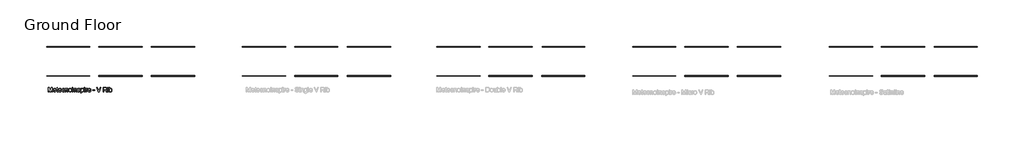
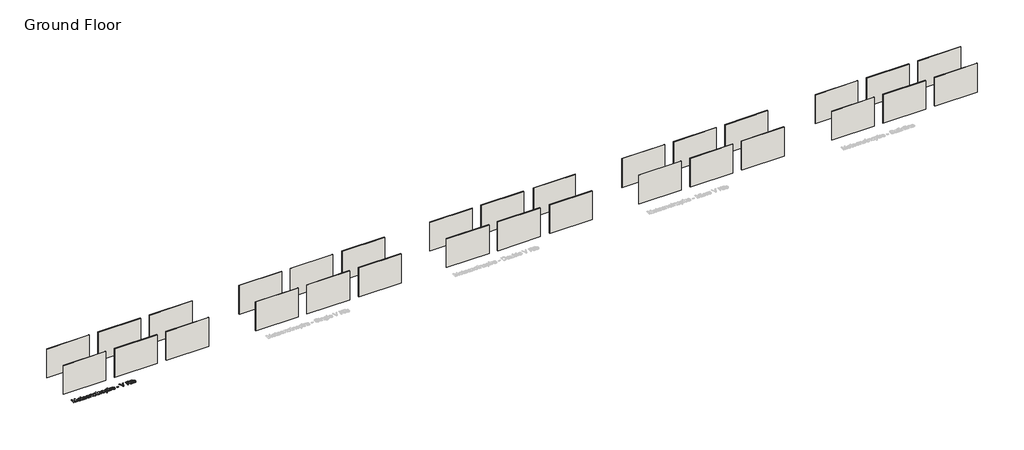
# One storey, part 1 of 5: 30 walls, 1 proxy.
"""IFC4 building model written with IfcOpenShell, lengths in millimetres."""

from ifc_helpers import new_model, si_unit, origin, origin_with_axes, place, context, project, spatial, polyline, outline, extrude, element, save

model = new_model("IFC4")

# Units and contexts
model_context = context("Model", 3, world=origin())
ifc_project = project(units=[si_unit("LENGTHUNIT", "METRE", prefix="MILLI")], contexts=[model_context])

# Site, building, storey
site = spatial("IfcSite", under=ifc_project)
building = spatial("IfcBuilding", under=site)
storey = spatial("IfcBuildingStorey", under=building, Name="Ground Floor", Elevation=0.0)

# Proxy
placement = place(None, origin())
element("IfcBuildingElementProxy", 1, Name="600mm Arial", ObjectType="600mm Arial", at=placement, inside=storey, context=model_context, shape_type="SweptSolid", body=[
    extrude(outline(polyline([(-31061.1753706, -1164.7468486), (-31061.1753706, -573.9776179), (-30934.108063, -573.9776179), (-30813.2426783, -990.3718486), (-30788.8676783, -1077.3430025), (-30762.4734476, -983.1603102), (-30643.6272937, -573.9776179), (-30516.559986, -573.9776179), (-30516.559986, -1164.7468486), (-30590.4061399, -1164.7468486), (-30590.4061399, -647.8237717), (-30738.8196014, -1164.7468486), (-30838.9157553, -1164.7468486), (-30987.3292168, -647.8237717), (-30987.3292168, -1164.7468486), (-31061.1753706, -1164.7468486)])), origin_with_axes(), (0.0, 0.0, 1.0), 20.0),
    extrude(outline(polyline([(-30092.809986, -1035.5160794), (-30020.4061399, -1044.7468486), (-30031.5074019, -1073.7462477), (-30046.4938803, -1099.3021371), (-30065.365575, -1121.4145169), (-30088.122486, -1140.0833871), (-30114.5302384, -1154.9121131), (-30144.3544572, -1165.5040602), (-30177.5951423, -1171.8592285), (-30214.2522937, -1173.9776179), (-30260.0726062, -1170.3222693), (-30300.8989283, -1159.3562236), (-30336.7312601, -1141.0794809), (-30367.5696014, -1115.492041), (-30392.3682793, -1083.3060434), (-30410.0816206, -1045.2336275), (-30420.7096255, -1001.2747934), (-30424.2522937, -951.429541), (-30420.6735678, -899.8940842), (-30409.9373899, -854.4704063), (-30392.0437601, -815.1585073), (-30366.9926783, -781.9583871), (-30336.2354668, -755.5821852), (-30301.2234476, -736.742041), (-30261.9566206, -725.4379544), (-30218.434986, -721.6699256), (-30176.3150942, -725.42894), (-30138.2246495, -736.7059833), (-30104.1636519, -755.5010554), (-30074.1321014, -781.8141563), (-30049.6173779, -814.9421611), (-30032.106861, -854.1819448), (-30021.6005509, -899.5335073), (-30018.0984476, -950.9968486), (-30018.5311399, -970.9006948), (-30350.4061399, -970.9006948), (-30346.1287961, -1000.3688438), (-30337.623688, -1026.1771371), (-30324.8908154, -1048.3255746), (-30307.9301783, -1066.8141563), (-30287.6792769, -1081.3904785), (-30265.075611, -1091.8021371), (-30240.1191807, -1098.0491323), (-30212.809986, -1100.131464), (-30173.5071014, -1096.273291), (-30140.4061399, -1084.6987717), (-30113.5071014, -1064.6867525), (-30092.809986, -1035.5160794)]), holes=[polyline([(-30350.4061399, -897.054541), (-30091.9446014, -897.054541), (-30101.9325822, -858.0401179), (-30110.5233274, -842.6975698), (-30121.5119091, -830.131464), (-30141.6501303, -814.9872333), (-30164.5647937, -804.1699256), (-30190.2558995, -797.679541), (-30218.7234476, -795.5160794), (-30244.6894932, -797.2423414), (-30268.5010918, -802.4211275), (-30290.1582432, -811.0524376), (-30309.6609476, -823.1362717), (-30326.0266327, -838.1137357), (-30338.2727264, -855.4259352), (-30346.3992288, -875.0728703), (-30350.4061399, -897.054541)])]), origin_with_axes(), (0.0, 0.0, 1.0), 20.0),
    extrude(outline(polyline([(-29787.3292168, -1103.1603102), (-29778.0984476, -1166.9103102), (-29833.3388322, -1173.9776179), (-29868.7835437, -1170.912714), (-29895.2138322, -1161.7180025), (-29913.8917168, -1147.5473294), (-29926.0792168, -1129.554541), (-29932.7859476, -1098.6530986), (-29935.0215245, -1045.756464), (-29935.0215245, -804.7468486), (-29990.4061399, -804.7468486), (-29990.4061399, -730.9006948), (-29935.0215245, -730.9006948), (-29935.0215245, -625.4680025), (-29861.1753706, -582.054541), (-29861.1753706, -730.9006948), (-29787.3292168, -730.9006948), (-29787.3292168, -804.7468486), (-29861.1753706, -804.7468486), (-29861.1753706, -1043.5930025), (-29857.2811399, -1081.6699256), (-29844.6609476, -1095.1555025), (-29834.0058995, -1098.8874736), (-29819.4926783, -1100.131464), (-29787.3292168, -1103.1603102)])), origin_with_axes(), (0.0, 0.0, 1.0), 20.0),
    extrude(outline(polyline([(-29409.733063, -1035.5160794), (-29337.3292168, -1044.7468486), (-29348.4304788, -1073.7462477), (-29363.4169572, -1099.3021371), (-29382.2886519, -1121.4145169), (-29405.045563, -1140.0833871), (-29431.4533154, -1154.9121131), (-29461.2775341, -1165.5040602), (-29494.5182192, -1171.8592285), (-29531.1753706, -1173.9776179), (-29576.9956831, -1170.3222693), (-29617.8220053, -1159.3562236), (-29653.654337, -1141.0794809), (-29684.4926783, -1115.492041), (-29709.2913562, -1083.3060434), (-29727.0046976, -1045.2336275), (-29737.6327024, -1001.2747934), (-29741.1753706, -951.429541), (-29737.5966447, -899.8940842), (-29726.8604668, -854.4704063), (-29708.966837, -815.1585073), (-29683.9157553, -781.9583871), (-29653.1585437, -755.5821852), (-29618.1465245, -736.742041), (-29578.8796976, -725.4379544), (-29535.358063, -721.6699256), (-29493.2381711, -725.42894), (-29455.1477264, -736.7059833), (-29421.0867288, -755.5010554), (-29391.0551783, -781.8141563), (-29366.5404548, -814.9421611), (-29349.029938, -854.1819448), (-29338.5236279, -899.5335073), (-29335.0215245, -950.9968486), (-29335.4542168, -970.9006948), (-29667.3292168, -970.9006948), (-29663.051873, -1000.3688438), (-29654.5467649, -1026.1771371), (-29641.8138923, -1048.3255746), (-29624.8532553, -1066.8141563), (-29604.6023538, -1081.3904785), (-29581.998688, -1091.8021371), (-29557.0422577, -1098.0491323), (-29529.733063, -1100.131464), (-29490.4301783, -1096.273291), (-29457.3292168, -1084.6987717), (-29430.4301783, -1064.6867525), (-29409.733063, -1035.5160794)]), holes=[polyline([(-29667.3292168, -897.054541), (-29408.8676783, -897.054541), (-29418.8556591, -858.0401179), (-29427.4464043, -842.6975698), (-29438.434986, -830.131464), (-29458.5732072, -814.9872333), (-29481.4878706, -804.1699256), (-29507.1789764, -797.679541), (-29535.6465245, -795.5160794), (-29561.6125702, -797.2423414), (-29585.4241687, -802.4211275), (-29607.0813202, -811.0524376), (-29626.5840245, -823.1362717), (-29642.9497096, -838.1137357), (-29655.1958033, -855.4259352), (-29663.3223057, -875.0728703), (-29667.3292168, -897.054541)])]), origin_with_axes(), (0.0, 0.0, 1.0), 20.0),
    extrude(outline(polyline([(-28984.2522937, -1007.8237717), (-28910.4061399, -1017.054541), (-28918.4379908, -1051.8997934), (-28930.9950822, -1082.7336275), (-28948.0774139, -1109.5560434), (-28969.684986, -1132.367041), (-28994.9073418, -1150.5716684), (-29022.8340245, -1163.5749736), (-29053.4650341, -1171.3769568), (-29086.8003706, -1173.9776179), (-29128.2171375, -1170.3493126), (-29165.3520533, -1159.4643967), (-29198.2051182, -1141.3228703), (-29226.7763322, -1115.9247333), (-29249.9028346, -1083.7477501), (-29266.4217649, -1045.2696852), (-29276.333123, -1000.4905385), (-29279.6369091, -949.4103102), (-29273.9938803, -883.695166), (-29266.9400942, -854.123351), (-29257.0647937, -826.742041), (-29244.3003706, -802.1011155), (-29228.5792168, -780.7504544), (-29209.9013322, -762.6900578), (-29188.2667168, -747.9199256), (-29164.6534355, -736.4355506), (-29140.0395533, -728.2324256), (-29114.4250702, -723.3105506), (-29087.809986, -721.6699256), (-29055.0470654, -723.9235313), (-29025.4121495, -730.6843486), (-28998.9052384, -741.9523775), (-28975.5263322, -757.7276179), (-28955.6720654, -777.6494929), (-28939.7390726, -801.3574256), (-28927.7273538, -828.851416), (-28919.6369091, -860.131464), (-28993.483063, -869.3622333), (-29006.8784956, -837.1446852), (-29027.7378706, -814.0497333), (-29054.9073418, -800.1494929), (-29087.233063, -795.5160794), (-29112.3247096, -797.7967285), (-29134.9554187, -804.6386756), (-29155.1251904, -816.0419208), (-29172.8340245, -832.006464), (-29187.2525942, -852.9018967), (-29197.5515726, -879.0978102), (-29203.7309596, -910.5942044), (-29205.7907553, -947.3910794), (-29203.7760317, -984.7423414), (-29197.731861, -1016.6038198), (-29187.6582432, -1042.9755145), (-29173.5551783, -1063.8574256), (-29156.1979067, -1079.7273174), (-29136.3616687, -1091.0629544), (-29114.0464644, -1097.8643366), (-29089.2522937, -1100.131464), (-29051.013111, -1094.4704063), (-29034.4761519, -1087.3940842), (-29019.6609476, -1077.4872333), (-29006.9821615, -1064.6416804), (-28996.8544572, -1048.7492525), (-28989.2778346, -1029.8099496), (-28984.2522937, -1007.8237717)])), origin_with_axes(), (0.0, 0.0, 1.0), 20.0),
    extrude(outline(polyline([(-28845.7907553, -1164.7468486), (-28845.7907553, -730.9006948), (-28771.9446014, -730.9006948), (-28771.9446014, -791.4776179), (-28746.2895533, -760.9367525), (-28715.4782553, -739.1218486), (-28679.5107072, -726.0329063), (-28638.3869091, -721.6699256), (-28601.9866687, -725.1855506), (-28568.6513322, -735.7324256), (-28540.8508514, -751.9944448), (-28521.0551783, -772.6555025), (-28507.623688, -797.6615121), (-28498.9157553, -826.9583871), (-28495.0215245, -898.3526179), (-28495.0215245, -1164.7468486), (-28568.8676783, -1164.7468486), (-28568.8676783, -908.304541), (-28570.9950822, -870.1194448), (-28577.3772937, -842.9680025), (-28589.1501303, -823.5148775), (-28607.4494091, -808.4247333), (-28630.904938, -798.7432429), (-28658.1465245, -795.5160794), (-28680.5699019, -797.3279785), (-28701.3977264, -802.7636756), (-28720.629998, -811.8231708), (-28738.2667168, -824.506464), (-28753.0007913, -842.2558631), (-28763.5251303, -866.5136756), (-28769.8397336, -897.2799015), (-28771.9446014, -934.554541), (-28771.9446014, -1164.7468486), (-28845.7907553, -1164.7468486)])), origin_with_axes(), (0.0, 0.0, 1.0), 20.0),
    extrude(outline(polyline([(-28411.9446014, -947.8237717), (-28407.951212, -891.6368727), (-28395.9710437, -843.2204063), (-28376.0040966, -802.5743727), (-28348.0503706, -769.6987717), (-28319.9073418, -748.6861515), (-28288.8436399, -733.6771371), (-28254.8592649, -724.6717285), (-28217.9542168, -721.6699256), (-28177.2135317, -725.3252741), (-28140.3760918, -736.2913198), (-28107.4418971, -754.5680626), (-28078.4109476, -780.1555025), (-28054.7165365, -812.1882549), (-28037.7919572, -849.8009352), (-28027.6372096, -892.9935434), (-28024.2522937, -941.7660794), (-28025.748688, -981.2943246), (-28030.2378706, -1016.3694448), (-28037.7198418, -1046.99144), (-28048.1946014, -1073.1603102), (-28061.5314404, -1095.763976), (-28077.5996495, -1115.6903583), (-28096.3992288, -1132.9394568), (-28117.9301783, -1147.5112717), (-28141.3541567, -1159.0902982), (-28165.8328226, -1167.3610313), (-28191.3661759, -1172.3234712), (-28217.9542168, -1173.9776179), (-28259.2898538, -1170.335791), (-28296.4698418, -1159.4103102), (-28329.4941807, -1141.2011756), (-28358.3628706, -1115.7083871), (-28381.8048779, -1083.3646371), (-28398.5491687, -1044.6026179), (-28408.5957432, -999.4223294), (-28411.9446014, -947.8237717)]), holes=[polyline([(-28338.0984476, -947.679541), (-28335.9620293, -983.498351), (-28329.5527745, -1014.5124736), (-28318.8706831, -1040.7219087), (-28303.9157553, -1062.1266563), (-28285.7246495, -1078.7537597), (-28265.3340245, -1090.6302621), (-28242.7438803, -1097.7561635), (-28217.9542168, -1100.131464), (-28193.2907553, -1097.7426419), (-28170.7907553, -1090.5761756), (-28150.4542168, -1078.632065), (-28132.2811399, -1061.9103102), (-28117.326212, -1040.2937236), (-28106.6441206, -1013.6651179), (-28100.2348658, -982.0244929), (-28098.0984476, -945.3718486), (-28100.2483875, -910.6888559), (-28106.6982072, -880.4860313), (-28117.4479067, -854.7633751), (-28132.497486, -833.5208871), (-28150.7381711, -816.8937837), (-28171.061188, -805.0172813), (-28193.4665365, -797.8913799), (-28217.9542168, -795.5160794), (-28242.7438803, -797.8823655), (-28265.3340245, -804.9812236), (-28285.7246495, -816.8126539), (-28303.9157553, -833.3766563), (-28318.8706831, -854.718303), (-28329.5527745, -880.882666), (-28335.9620293, -911.8697453), (-28338.0984476, -947.679541)])]), origin_with_axes(), (0.0, 0.0, 1.0), 20.0),
    extrude(outline(polyline([(-27922.7138322, -1164.7468486), (-27922.7138322, -573.9776179), (-27848.8676783, -573.9776179), (-27848.8676783, -1164.7468486), (-27922.7138322, -1164.7468486)])), origin_with_axes(), (0.0, 0.0, 1.0), 20.0),
    extrude(outline(polyline([(-27710.4061399, -1164.7468486), (-27710.4061399, -730.9006948), (-27636.559986, -730.9006948), (-27636.559986, -791.4776179), (-27610.904938, -760.9367525), (-27580.0936399, -739.1218486), (-27544.1260918, -726.0329063), (-27503.0022937, -721.6699256), (-27466.6020533, -725.1855506), (-27433.2667168, -735.7324256), (-27405.466236, -751.9944448), (-27385.670563, -772.6555025), (-27372.2390726, -797.6615121), (-27363.5311399, -826.9583871), (-27359.6369091, -898.3526179), (-27359.6369091, -1164.7468486), (-27433.483063, -1164.7468486), (-27433.483063, -908.304541), (-27435.6104668, -870.1194448), (-27441.9926783, -842.9680025), (-27453.7655149, -823.5148775), (-27472.0647937, -808.4247333), (-27495.5203226, -798.7432429), (-27522.7619091, -795.5160794), (-27545.1852865, -797.3279785), (-27566.013111, -802.7636756), (-27585.2453827, -811.8231708), (-27602.8821014, -824.506464), (-27617.6161759, -842.2558631), (-27628.1405149, -866.5136756), (-27634.4551182, -897.2799015), (-27636.559986, -934.554541), (-27636.559986, -1164.7468486), (-27710.4061399, -1164.7468486)])), origin_with_axes(), (0.0, 0.0, 1.0), 20.0),
    extrude(outline(polyline([(-27285.7907553, -1035.5160794), (-27211.9446014, -1026.2853102), (-27207.482462, -1043.1242525), (-27200.2979668, -1057.8718486), (-27190.3911158, -1070.5280986), (-27177.7619091, -1081.0930025), (-27162.3742889, -1089.4223294), (-27144.1921976, -1095.3718486), (-27099.4446014, -1100.131464), (-27055.2378706, -1095.7684833), (-27038.0563803, -1090.3147573), (-27024.1561399, -1082.679541), (-27005.7667168, -1063.7131948), (-26999.6369091, -1041.7180025), (-27001.1783755, -1031.7480506), (-27005.8027745, -1022.8958871), (-27024.3003706, -1008.5449256), (-27051.9566206, -999.1699256), (-27100.309986, -987.4872333), (-27167.701813, -967.9980506), (-27211.5119091, -951.3574256), (-27239.654938, -933.2023775), (-27260.045563, -909.1699256), (-27272.4313803, -880.7925217), (-27276.559986, -849.6026179), (-27273.2426783, -820.990839), (-27263.2907553, -794.5785794), (-27247.6056591, -771.4115121), (-27227.0888322, -752.5353102), (-27206.6982072, -740.6543006), (-27180.1417168, -730.6843486), (-27149.4385918, -723.9235313), (-27116.608063, -721.6699256), (-27068.5431591, -725.2937236), (-27026.7522937, -736.1651179), (-26993.1465245, -753.2204063), (-26969.6369091, -775.3958871), (-26954.059986, -804.3321852), (-26944.2522937, -841.6699256), (-27018.0984476, -850.9006948), (-27027.419361, -827.6615121), (-27045.8628706, -810.1555025), (-27073.6092649, -799.1759352), (-27110.8388322, -795.5160794), (-27153.2426783, -799.0136756), (-27181.5119091, -809.506464), (-27197.4133514, -824.6506948), (-27202.7138322, -842.1026179), (-27200.514313, -853.460791), (-27193.9157553, -863.5930025), (-27182.6296976, -872.6434833), (-27166.3676783, -879.8910794), (-27102.7619091, -895.6122333), (-26994.372486, -930.3718486), (-26965.7426783, -946.9944448), (-26944.0359476, -969.7468486), (-26930.3520533, -998.7011756), (-26925.7907553, -1033.929541), (-26931.1453226, -1070.3478102), (-26947.2090245, -1104.6026179), (-26973.3688803, -1134.007666), (-27009.0119091, -1155.8766563), (-27052.0647937, -1169.4523775), (-27100.4542168, -1173.9776179), (-27140.1988081, -1171.7961275), (-27174.9133514, -1165.2516563), (-27204.5978466, -1154.3442044), (-27229.2522937, -1139.0737717), (-27249.3905149, -1119.5124736), (-27265.5263322, -1095.7324256), (-27277.6597456, -1067.7336275), (-27285.7907553, -1035.5160794)])), origin_with_axes(), (0.0, 0.0, 1.0), 20.0),
    extrude(outline(polyline([(-26842.7138322, -1330.9006948), (-26842.7138322, -730.9006948), (-26768.8676783, -730.9006948), (-26768.8676783, -803.304541), (-26744.7811399, -767.5893967), (-26717.809986, -742.0785794), (-26686.3676783, -726.772089), (-26648.8676783, -721.6699256), (-26623.1134716, -723.4547813), (-26598.9277745, -728.8093486), (-26576.310587, -737.7336275), (-26555.2619091, -750.2276179), (-26536.2414764, -765.9668006), (-26519.7090245, -784.6266563), (-26505.6645533, -806.2071852), (-26494.108063, -830.7083871), (-26478.639313, -885.1194448), (-26473.483063, -944.506464), (-26479.3063803, -1007.6615121), (-26486.5855269, -1036.7375337), (-26496.7763322, -1064.1458871), (-26509.7390726, -1089.1699256), (-26525.3340245, -1111.0930025), (-26543.561188, -1129.9151179), (-26564.420563, -1145.6362717), (-26586.8890125, -1158.0356107), (-26609.9433995, -1166.8922813), (-26633.583724, -1172.2062837), (-26657.809986, -1173.9776179), (-26691.7583033, -1169.2360313), (-26722.0647937, -1155.0112717), (-26748.0083033, -1133.538916), (-26768.8676783, -1107.054541), (-26768.8676783, -1330.9006948), (-26842.7138322, -1330.9006948)]), holes=[polyline([(-26768.8676783, -951.2853102), (-26766.8709836, -986.8742525), (-26760.8808995, -1017.4872333), (-26750.8974259, -1043.1242525), (-26736.920563, -1063.7853102), (-26720.0951423, -1079.6867525), (-26701.5659956, -1091.0449256), (-26681.333123, -1097.8598294), (-26659.3965245, -1100.131464), (-26637.1444211, -1097.7786996), (-26616.5419572, -1090.7204063), (-26597.5891327, -1078.9565842), (-26580.2859476, -1062.4872333), (-26565.8673779, -1041.0779785), (-26555.5683995, -1014.4944448), (-26549.3890125, -982.7366323), (-26547.3292168, -945.804541), (-26549.3394331, -910.522089), (-26555.3700822, -879.9631948), (-26565.4211639, -854.1278583), (-26579.4926783, -833.0160794), (-26596.3586639, -816.6098294), (-26614.7931591, -804.8910794), (-26634.7961639, -797.8598294), (-26656.3676783, -795.5160794), (-26677.8715846, -798.0085674), (-26698.1044572, -805.4860313), (-26717.0662961, -817.9484712), (-26734.7571014, -835.3958871), (-26749.6804788, -857.5939039), (-26760.3400341, -884.3081467), (-26766.7357673, -915.5386155), (-26768.8676783, -951.2853102)])]), origin_with_axes(), (0.0, 0.0, 1.0), 20.0),
    extrude(outline(polyline([(-26390.4061399, -1164.7468486), (-26390.4061399, -730.9006948), (-26316.559986, -730.9006948), (-26316.559986, -1164.7468486), (-26390.4061399, -1164.7468486)])), origin_with_axes(), (0.0, 0.0, 1.0), 20.0),
    extrude(outline(polyline([(-26390.4061399, -647.8237717), (-26390.4061399, -573.9776179), (-26316.559986, -573.9776179), (-26316.559986, -647.8237717), (-26390.4061399, -647.8237717)])), origin_with_axes(), (0.0, 0.0, 1.0), 20.0),
    extrude(outline(polyline([(-26205.7907553, -1164.7468486), (-26205.7907553, -730.9006948), (-26141.1753706, -730.9006948), (-26141.1753706, -795.0833871), (-26117.3051783, -757.8718486), (-26095.309986, -735.9487717), (-26073.2426783, -725.2396371), (-26049.1561399, -721.6699256), (-26012.3772937, -727.367041), (-25975.0215245, -744.4583871), (-25999.684986, -810.6603102), (-26025.6465245, -799.3021371), (-26051.608063, -795.5160794), (-26073.6573418, -799.1579063), (-26093.3628706, -810.0833871), (-26109.2823418, -827.4631948), (-26119.9734476, -850.4680025), (-26128.951813, -891.7180025), (-26131.9446014, -936.7180025), (-26131.9446014, -1164.7468486), (-26205.7907553, -1164.7468486)])), origin_with_axes(), (0.0, 0.0, 1.0), 20.0),
    extrude(outline(polyline([(-25625.1176783, -1035.5160794), (-25552.7138322, -1044.7468486), (-25563.8150942, -1073.7462477), (-25578.8015726, -1099.3021371), (-25597.6732673, -1121.4145169), (-25620.4301783, -1140.0833871), (-25646.8379307, -1154.9121131), (-25676.6621495, -1165.5040602), (-25709.9028346, -1171.8592285), (-25746.559986, -1173.9776179), (-25792.3802985, -1170.3222693), (-25833.2066206, -1159.3562236), (-25869.0389524, -1141.0794809), (-25899.8772937, -1115.492041), (-25924.6759716, -1083.3060434), (-25942.389313, -1045.2336275), (-25953.0173178, -1001.2747934), (-25956.559986, -951.429541), (-25952.9812601, -899.8940842), (-25942.2450822, -854.4704063), (-25924.3514524, -815.1585073), (-25899.3003706, -781.9583871), (-25868.5431591, -755.5821852), (-25833.5311399, -736.742041), (-25794.264313, -725.4379544), (-25750.7426783, -721.6699256), (-25708.6227865, -725.42894), (-25670.5323418, -736.7059833), (-25636.4713442, -755.5010554), (-25606.4397937, -781.8141563), (-25581.9250702, -814.9421611), (-25564.4145533, -854.1819448), (-25553.9082432, -899.5335073), (-25550.4061399, -950.9968486), (-25550.8388322, -970.9006948), (-25882.7138322, -970.9006948), (-25878.4364884, -1000.3688438), (-25869.9313803, -1026.1771371), (-25857.1985077, -1048.3255746), (-25840.2378706, -1066.8141563), (-25819.9869692, -1081.3904785), (-25797.3833033, -1091.8021371), (-25772.426873, -1098.0491323), (-25745.1176783, -1100.131464), (-25705.8147937, -1096.273291), (-25672.7138322, -1084.6987717), (-25645.8147937, -1064.6867525), (-25625.1176783, -1035.5160794)]), holes=[polyline([(-25882.7138322, -897.054541), (-25624.2522937, -897.054541), (-25634.2402745, -858.0401179), (-25642.8310197, -842.6975698), (-25653.8196014, -830.131464), (-25673.9578226, -814.9872333), (-25696.872486, -804.1699256), (-25722.5635918, -797.679541), (-25751.0311399, -795.5160794), (-25776.9971855, -797.2423414), (-25800.8087841, -802.4211275), (-25822.4659355, -811.0524376), (-25841.9686399, -823.1362717), (-25858.334325, -838.1137357), (-25870.5804187, -855.4259352), (-25878.7069211, -875.0728703), (-25882.7138322, -897.054541)])]), origin_with_axes(), (0.0, 0.0, 1.0), 20.0),
    extrude(outline(polyline([(-25282.7138322, -989.3622333), (-25282.7138322, -915.5160794), (-25051.9446014, -915.5160794), (-25051.9446014, -989.3622333), (-25282.7138322, -989.3622333)])), origin_with_axes(), (0.0, 0.0, 1.0), 20.0),
    extrude(outline(polyline([(-24554.3484476, -1164.7468486), (-24789.4446014, -573.9776179), (-24710.4061399, -573.9776179), (-24553.0503706, -999.6026179), (-24521.1753706, -1095.5160794), (-24489.733063, -999.6026179), (-24331.9446014, -573.9776179), (-24252.9061399, -573.9776179), (-24478.0503706, -1164.7468486), (-24554.3484476, -1164.7468486)])), origin_with_axes(), (0.0, 0.0, 1.0), 20.0),
    extrude(outline(polyline([(-23953.483063, -1164.7468486), (-23953.483063, -573.9776179), (-23698.9157553, -573.9776179), (-23630.4962841, -577.9619929), (-23580.7186399, -589.9151179), (-23561.5089043, -599.4163198), (-23544.3364283, -611.9824256), (-23529.201212, -627.6134352), (-23516.1032553, -646.3093486), (-23505.5338442, -667.0650578), (-23497.9842649, -688.8754544), (-23491.9446014, -735.6603102), (-23494.4461038, -766.0028583), (-23501.950611, -793.8574256), (-23514.458123, -819.2240121), (-23531.9686399, -842.1026179), (-23554.7075221, -861.7630746), (-23582.9001303, -877.475214), (-23616.5464644, -889.2390361), (-23655.6465245, -897.054541), (-23631.3075822, -912.9559833), (-23613.6753706, -928.6410794), (-23553.8196014, -1004.6506948), (-23455.309986, -1164.7468486), (-23541.1272937, -1164.7468486), (-23618.0022937, -1042.2949256), (-23673.5311399, -961.2372333), (-23694.1741687, -937.601416), (-23712.545563, -922.943964), (-23747.6657553, -908.881464), (-23790.5022937, -906.2853102), (-23879.6369091, -906.2853102), (-23879.6369091, -1164.7468486), (-23953.483063, -1164.7468486)]), holes=[polyline([(-23879.6369091, -832.4391563), (-23714.3484476, -832.4391563), (-23666.8784956, -829.8249736), (-23630.045563, -821.9824256), (-23602.3171976, -808.3886756), (-23582.1609476, -788.5208871), (-23569.8833033, -764.4884352), (-23565.7907553, -738.4006948), (-23567.7423779, -719.5154785), (-23573.5972456, -702.3790602), (-23583.3553586, -686.99144), (-23597.0167168, -673.3526179), (-23614.896825, -662.1837477), (-23637.311188, -654.2059833), (-23664.2598057, -649.4193246), (-23695.7426783, -647.8237717), (-23879.6369091, -647.8237717), (-23879.6369091, -832.4391563)])]), origin_with_axes(), (0.0, 0.0, 1.0), 20.0),
    extrude(outline(polyline([(-23371.9446014, -1164.7468486), (-23371.9446014, -730.9006948), (-23298.0984476, -730.9006948), (-23298.0984476, -1164.7468486), (-23371.9446014, -1164.7468486)])), origin_with_axes(), (0.0, 0.0, 1.0), 20.0),
    extrude(outline(polyline([(-23371.9446014, -647.8237717), (-23371.9446014, -573.9776179), (-23298.0984476, -573.9776179), (-23298.0984476, -647.8237717), (-23371.9446014, -647.8237717)])), origin_with_axes(), (0.0, 0.0, 1.0), 20.0),
    extrude(outline(polyline([(-23113.483063, -1164.7468486), (-23187.3292168, -1164.7468486), (-23187.3292168, -573.9776179), (-23113.483063, -573.9776179), (-23113.483063, -793.0641563), (-23089.1982072, -761.8291804), (-23061.7763322, -739.5184833), (-23031.217438, -726.132065), (-22997.5215245, -721.6699256), (-22959.4806591, -725.6903583), (-22923.5311399, -737.7516563), (-22891.7282553, -757.0966083), (-22866.1272937, -782.9680025), (-22846.061188, -815.1134352), (-22830.8628706, -853.2805025), (-22821.2895533, -895.882666), (-22818.0984476, -941.3333871), (-22821.4022336, -993.7793006), (-22831.3135918, -1039.9151179), (-22847.8325221, -1079.740839), (-22870.9590245, -1113.256464), (-22898.7189404, -1139.8219688), (-22929.138111, -1158.7973294), (-22962.2165365, -1170.1825458), (-22997.9542168, -1173.9776179), (-23032.7589043, -1169.0827861), (-23063.6152745, -1154.398291), (-23090.5233274, -1129.9241323), (-23113.483063, -1095.6603102), (-23113.483063, -1164.7468486)]), holes=[polyline([(-23113.483063, -944.7949256), (-23108.434986, -1006.381464), (-23102.1248899, -1029.710791), (-23093.2907553, -1048.0641563), (-23075.3971255, -1070.8436035), (-23054.6008514, -1087.1146371), (-23030.9019331, -1096.8772573), (-23004.3003706, -1100.131464), (-22982.2150341, -1097.7336275), (-22961.6801783, -1090.5401179), (-22942.6958033, -1078.5509352), (-22925.2619091, -1061.7660794), (-22910.685587, -1040.2306227), (-22900.2739283, -1013.9896371), (-22894.0269331, -983.0431227), (-22891.9446014, -947.3910794), (-22893.9412961, -911.0629544), (-22899.9313803, -879.818964), (-22909.9148538, -853.6591083), (-22923.8917168, -832.5833871), (-22940.6991086, -816.36644), (-22959.1741687, -804.7829063), (-22979.3168971, -797.8327861), (-23001.1272937, -795.5160794), (-23023.2126303, -797.913916), (-23043.747486, -805.1074256), (-23062.731861, -817.0966083), (-23080.1657553, -833.881464), (-23094.7420774, -855.2005746), (-23105.153736, -880.7925217), (-23111.4007312, -910.6573054), (-23113.483063, -944.7949256)])]), origin_with_axes(), (0.0, 0.0, 1.0), 20.0),
])

# Walls
element("IfcWall", 2, ObjectType="Insulated Panel-MetecnoInspire-Single V Rib-Hori-50mm-Surfmist", at=placement, inside=storey, context=model_context, shape_type="SweptSolid", body=[
    extrude(outline(polyline([(-365.214984, 874.5608175), (-5965.214984, 874.5608175), (-5965.214984, 924.5608175), (-365.214984, 924.5608175), (-365.214984, 874.5608175)])), origin_with_axes(), (0.0, 0.0, 1.0), 4000.0),
])
element("IfcWall", 3, ObjectType="Insulated Panel-MetecnoInspire-Single V Rib-Hori-80mm-Surfmist", at=placement, inside=storey, context=model_context, shape_type="SweptSolid", body=[
    extrude(outline(polyline([(6379.585016, 859.5608175), (779.585016, 859.5608175), (779.585016, 939.5608175), (6379.585016, 939.5608175), (6379.585016, 859.5608175)])), origin_with_axes(), (0.0, 0.0, 1.0), 4000.0),
])
element("IfcWall", 4, ObjectType="Insulated Panel-MetecnoInspire-Single V Rib-Hori-100mm-Surfmist", at=placement, inside=storey, context=model_context, shape_type="SweptSolid", body=[
    extrude(outline(polyline([(13179.585016, 849.5608175), (7579.585016, 849.5608175), (7579.585016, 949.5608175), (13179.585016, 949.5608175), (13179.585016, 849.5608175)])), origin_with_axes(), (0.0, 0.0, 1.0), 4000.0),
])
element("IfcWall", 5, ObjectType="Insulated Panel-MetecnoInspire-Single V Rib-Vert-50mm-Surfmist", at=placement, inside=storey, context=model_context, shape_type="SweptSolid", body=[
    extrude(outline(polyline([(-365.214984, 4654.5608175), (-5965.214984, 4654.5608175), (-5965.214984, 4704.5608175), (-365.214984, 4704.5608175), (-365.214984, 4654.5608175)])), origin_with_axes(), (0.0, 0.0, 1.0), 4000.0),
])
element("IfcWall", 6, ObjectType="Insulated Panel-MetecnoInspire-Single V Rib-Vert-80mm-Surfmist", at=placement, inside=storey, context=model_context, shape_type="SweptSolid", body=[
    extrude(outline(polyline([(6379.585016, 4639.5608175), (779.585016, 4639.5608175), (779.585016, 4719.5608175), (6379.585016, 4719.5608175), (6379.585016, 4639.5608175)])), origin_with_axes(), (0.0, 0.0, 1.0), 4000.0),
])
element("IfcWall", 7, ObjectType="Insulated Panel-MetecnoInspire-Single V Rib-Vert-100mm-Surfmist", at=placement, inside=storey, context=model_context, shape_type="SweptSolid", body=[
    extrude(outline(polyline([(13179.585016, 4629.5608175), (7579.585016, 4629.5608175), (7579.585016, 4729.5608175), (13179.585016, 4729.5608175), (13179.585016, 4629.5608175)])), origin_with_axes(), (0.0, 0.0, 1.0), 4000.0),
])
element("IfcWall", 8, ObjectType="Insulated Panel-MetecnoInspire-V Rib-Hori-50mm-Surfmist", at=placement, inside=storey, context=model_context, shape_type="SweptSolid", body=[
    extrude(outline(polyline([(-25665.214984, 874.5608175), (-31265.214984, 874.5608175), (-31265.214984, 924.5608175), (-25665.214984, 924.5608175), (-25665.214984, 874.5608175)])), origin_with_axes(), (0.0, 0.0, 1.0), 4000.0),
])
element("IfcWall", 9, ObjectType="Insulated Panel-MetecnoInspire-V Rib-Hori-80mm-Surfmist", at=placement, inside=storey, context=model_context, shape_type="SweptSolid", body=[
    extrude(outline(polyline([(-18920.414984, 859.5608175), (-24520.414984, 859.5608175), (-24520.414984, 939.5608175), (-18920.414984, 939.5608175), (-18920.414984, 859.5608175)])), origin_with_axes(), (0.0, 0.0, 1.0), 4000.0),
])
element("IfcWall", 10, ObjectType="Insulated Panel-MetecnoInspire-V Rib-Hori-100mm-Surfmist", at=placement, inside=storey, context=model_context, shape_type="SweptSolid", body=[
    extrude(outline(polyline([(-12120.414984, 849.5608175), (-17720.414984, 849.5608175), (-17720.414984, 949.5608175), (-12120.414984, 949.5608175), (-12120.414984, 849.5608175)])), origin_with_axes(), (0.0, 0.0, 1.0), 4000.0),
])
element("IfcWall", 11, ObjectType="Insulated Panel-MetecnoInspire-V Rib-Vert-50mm-Surfmist", at=placement, inside=storey, context=model_context, shape_type="SweptSolid", body=[
    extrude(outline(polyline([(-25665.214984, 4654.5608175), (-31265.214984, 4654.5608175), (-31265.214984, 4704.5608175), (-25665.214984, 4704.5608175), (-25665.214984, 4654.5608175)])), origin_with_axes(), (0.0, 0.0, 1.0), 4000.0),
])
element("IfcWall", 12, ObjectType="Insulated Panel-MetecnoInspire-V Rib-Vert-80mm-Surfmist", at=placement, inside=storey, context=model_context, shape_type="SweptSolid", body=[
    extrude(outline(polyline([(-18920.414984, 4639.5608175), (-24520.414984, 4639.5608175), (-24520.414984, 4719.5608175), (-18920.414984, 4719.5608175), (-18920.414984, 4639.5608175)])), origin_with_axes(), (0.0, 0.0, 1.0), 4000.0),
])
element("IfcWall", 13, ObjectType="Insulated Panel-MetecnoInspire-V Rib-Vert-100mm-Surfmist", at=placement, inside=storey, context=model_context, shape_type="SweptSolid", body=[
    extrude(outline(polyline([(-12120.414984, 4629.5608175), (-17720.414984, 4629.5608175), (-17720.414984, 4729.5608175), (-12120.414984, 4729.5608175), (-12120.414984, 4629.5608175)])), origin_with_axes(), (0.0, 0.0, 1.0), 4000.0),
])
element("IfcWall", 14, ObjectType="Insulated Panel-MetecnoInspire-Double V Rib-Hori-50mm-Surfmist", at=placement, inside=storey, context=model_context, shape_type="SweptSolid", body=[
    extrude(outline(polyline([(24734.785016, 874.5608175), (19134.785016, 874.5608175), (19134.785016, 924.5608175), (24734.785016, 924.5608175), (24734.785016, 874.5608175)])), origin_with_axes(), (0.0, 0.0, 1.0), 4000.0),
])
element("IfcWall", 15, ObjectType="Insulated Panel-MetecnoInspire-Double V Rib-Hori-80mm-Surfmist", at=placement, inside=storey, context=model_context, shape_type="SweptSolid", body=[
    extrude(outline(polyline([(31479.585016, 859.5608175), (25879.585016, 859.5608175), (25879.585016, 939.5608175), (31479.585016, 939.5608175), (31479.585016, 859.5608175)])), origin_with_axes(), (0.0, 0.0, 1.0), 4000.0),
])
element("IfcWall", 16, ObjectType="Insulated Panel-MetecnoInspire-Double V Rib-Hori-100mm-Surfmist", at=placement, inside=storey, context=model_context, shape_type="SweptSolid", body=[
    extrude(outline(polyline([(38279.585016, 849.5608175), (32679.585016, 849.5608175), (32679.585016, 949.5608175), (38279.585016, 949.5608175), (38279.585016, 849.5608175)])), origin_with_axes(), (0.0, 0.0, 1.0), 4000.0),
])
element("IfcWall", 17, ObjectType="Insulated Panel-MetecnoInspire-Double V Rib-Vert-50mm-Surfmist", at=placement, inside=storey, context=model_context, shape_type="SweptSolid", body=[
    extrude(outline(polyline([(24734.785016, 4654.5608175), (19134.785016, 4654.5608175), (19134.785016, 4704.5608175), (24734.785016, 4704.5608175), (24734.785016, 4654.5608175)])), origin_with_axes(), (0.0, 0.0, 1.0), 4000.0),
])
element("IfcWall", 18, ObjectType="Insulated Panel-MetecnoInspire-Double V Rib-Vert-80mm-Surfmist", at=placement, inside=storey, context=model_context, shape_type="SweptSolid", body=[
    extrude(outline(polyline([(31479.585016, 4639.5608175), (25879.585016, 4639.5608175), (25879.585016, 4719.5608175), (31479.585016, 4719.5608175), (31479.585016, 4639.5608175)])), origin_with_axes(), (0.0, 0.0, 1.0), 4000.0),
])
element("IfcWall", 19, ObjectType="Insulated Panel-MetecnoInspire-Double V Rib-Vert-100mm-Surfmist", at=placement, inside=storey, context=model_context, shape_type="SweptSolid", body=[
    extrude(outline(polyline([(38279.585016, 4629.5608175), (32781.585016, 4629.5608175), (32781.585016, 4729.5608175), (38279.585016, 4729.5608175), (38279.585016, 4629.5608175)])), origin_with_axes(), (0.0, 0.0, 1.0), 4000.0),
])
element("IfcWall", 20, ObjectType="Insulated Panel-MetecnoInspire-Micro V Rib-Hori-50mm-Surfmist", at=placement, inside=storey, context=model_context, shape_type="SweptSolid", body=[
    extrude(outline(polyline([(50034.785016, 874.5608175), (44434.785016, 874.5608175), (44434.785016, 924.5608175), (50034.785016, 924.5608175), (50034.785016, 874.5608175)])), origin_with_axes(), (0.0, 0.0, 1.0), 4000.0),
])
element("IfcWall", 21, ObjectType="Insulated Panel-MetecnoInspire-Micro V Rib-Hori-80mm-Surfmist", at=placement, inside=storey, context=model_context, shape_type="SweptSolid", body=[
    extrude(outline(polyline([(56779.585016, 859.5608175), (51179.585016, 859.5608175), (51179.585016, 939.5608175), (56779.585016, 939.5608175), (56779.585016, 859.5608175)])), origin_with_axes(), (0.0, 0.0, 1.0), 4000.0),
])
element("IfcWall", 22, ObjectType="Insulated Panel-MetecnoInspire-Micro V Rib-Hori-100mm-Surfmist", at=placement, inside=storey, context=model_context, shape_type="SweptSolid", body=[
    extrude(outline(polyline([(63579.585016, 849.5608175), (57979.585016, 849.5608175), (57979.585016, 949.5608175), (63579.585016, 949.5608175), (63579.585016, 849.5608175)])), origin_with_axes(), (0.0, 0.0, 1.0), 4000.0),
])
element("IfcWall", 23, ObjectType="Insulated Panel-MetecnoInspire-Micro V Rib-Vert-50mm-Surfmist", at=placement, inside=storey, context=model_context, shape_type="SweptSolid", body=[
    extrude(outline(polyline([(50034.785016, 4654.5608175), (44434.785016, 4654.5608175), (44434.785016, 4704.5608175), (50034.785016, 4704.5608175), (50034.785016, 4654.5608175)])), origin_with_axes(), (0.0, 0.0, 1.0), 4000.0),
])
element("IfcWall", 24, ObjectType="Insulated Panel-MetecnoInspire-Micro V Rib-Vert-80mm-Surfmist", at=placement, inside=storey, context=model_context, shape_type="SweptSolid", body=[
    extrude(outline(polyline([(56779.585016, 4639.5608175), (51179.585016, 4639.5608175), (51179.585016, 4719.5608175), (56779.585016, 4719.5608175), (56779.585016, 4639.5608175)])), origin_with_axes(), (0.0, 0.0, 1.0), 4000.0),
])
element("IfcWall", 25, ObjectType="Insulated Panel-MetecnoInspire-Micro V Rib-Vert-100mm-Surfmist", at=placement, inside=storey, context=model_context, shape_type="SweptSolid", body=[
    extrude(outline(polyline([(63579.585016, 4629.5608175), (57979.585016, 4629.5608175), (57979.585016, 4729.5608175), (63579.585016, 4729.5608175), (63579.585016, 4629.5608175)])), origin_with_axes(), (0.0, 0.0, 1.0), 4000.0),
])
element("IfcWall", 26, ObjectType="Insulated Panel-MetecnoInspire-Satinline-Hori-50mm-Surfmist", at=placement, inside=storey, context=model_context, shape_type="SweptSolid", body=[
    extrude(outline(polyline([(75434.785016, 874.5608175), (69834.785016, 874.5608175), (69834.785016, 924.5608175), (75434.785016, 924.5608175), (75434.785016, 874.5608175)])), origin_with_axes(), (0.0, 0.0, 1.0), 4000.0),
])
element("IfcWall", 27, ObjectType="Insulated Panel-MetecnoInspire-Satinline-Hori-80mm-Surfmist", at=placement, inside=storey, context=model_context, shape_type="SweptSolid", body=[
    extrude(outline(polyline([(82179.585016, 859.5608175), (76579.585016, 859.5608175), (76579.585016, 939.5608175), (82179.585016, 939.5608175), (82179.585016, 859.5608175)])), origin_with_axes(), (0.0, 0.0, 1.0), 4000.0),
])
element("IfcWall", 28, ObjectType="Insulated Panel-MetecnoInspire-Satinline-Hori-100mm-Surfmist", at=placement, inside=storey, context=model_context, shape_type="SweptSolid", body=[
    extrude(outline(polyline([(88979.585016, 849.5608175), (83379.585016, 849.5608175), (83379.585016, 949.5608175), (88979.585016, 949.5608175), (88979.585016, 849.5608175)])), origin_with_axes(), (0.0, 0.0, 1.0), 4000.0),
])
element("IfcWall", 29, ObjectType="Insulated Panel-MetecnoInspire-Satinline-Vert-50mm-Surfmist", at=placement, inside=storey, context=model_context, shape_type="SweptSolid", body=[
    extrude(outline(polyline([(75434.785016, 4654.5608175), (69834.785016, 4654.5608175), (69834.785016, 4704.5608175), (75434.785016, 4704.5608175), (75434.785016, 4654.5608175)])), origin_with_axes(), (0.0, 0.0, 1.0), 4000.0),
])
element("IfcWall", 30, ObjectType="Insulated Panel-MetecnoInspire-Satinline-Vert-80mm-Surfmist", at=placement, inside=storey, context=model_context, shape_type="SweptSolid", body=[
    extrude(outline(polyline([(82179.585016, 4639.5608175), (76579.585016, 4639.5608175), (76579.585016, 4719.5608175), (82179.585016, 4719.5608175), (82179.585016, 4639.5608175)])), origin_with_axes(), (0.0, 0.0, 1.0), 4000.0),
])
element("IfcWall", 31, ObjectType="Insulated Panel-MetecnoInspire-Satinline-Vert-100mm-Surfmist", at=placement, inside=storey, context=model_context, shape_type="SweptSolid", body=[
    extrude(outline(polyline([(88979.585016, 4629.5608175), (83379.585016, 4629.5608175), (83379.585016, 4729.5608175), (88979.585016, 4729.5608175), (88979.585016, 4629.5608175)])), origin_with_axes(), (0.0, 0.0, 1.0), 4000.0),
])

save(model, "model.ifc")
